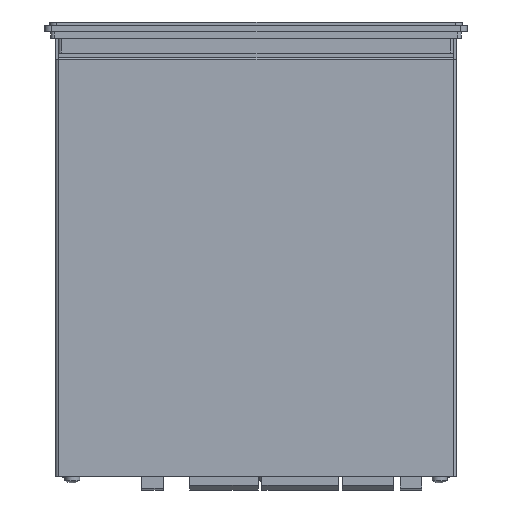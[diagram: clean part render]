
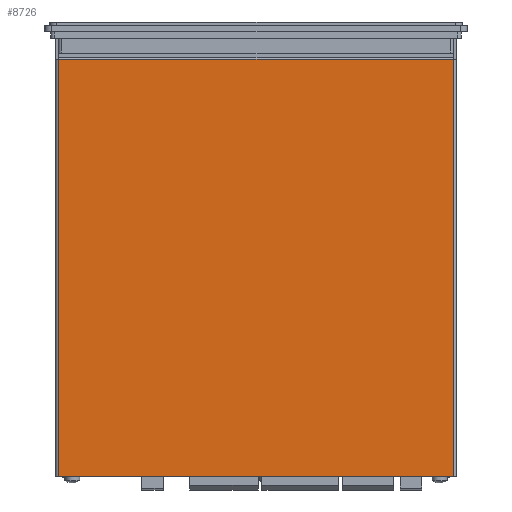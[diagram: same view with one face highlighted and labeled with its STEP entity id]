
A CAD part, front view. The second image highlights one B-rep face of the part: STEP entity #8726.
In plain terms, the highlighted planar face has unit normal (0, -1, 0).
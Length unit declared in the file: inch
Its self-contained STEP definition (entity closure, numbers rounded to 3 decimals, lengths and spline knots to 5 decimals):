
#8641=CARTESIAN_POINT('',(3.5525,-1.79,3.535));
#8642=VERTEX_POINT('',#8641);
#8678=CARTESIAN_POINT('',(-3.5525,-1.79,3.535));
#8679=VERTEX_POINT('',#8678);
#8687=CARTESIAN_POINT('',(3.5525,-1.79,3.535));
#8688=DIRECTION('',(-1.0,0.0,0.0));
#8689=VECTOR('',#8688,7.105);
#8690=LINE('',#8687,#8689);
#8691=EDGE_CURVE('',#8642,#8679,#8690,.T.);
#8696=CARTESIAN_POINT('',(-3.559,-1.79,4.035));
#8697=DIRECTION('',(0.0,-1.0,0.0));
#8698=DIRECTION('',(0.0,0.0,-1.0));
#8699=AXIS2_PLACEMENT_3D('',#8696,#8697,#8698);
#8700=PLANE('',#8699);
#8701=ORIENTED_EDGE('',*,*,#8691,.T.);
#8702=CARTESIAN_POINT('',(-3.5525,-1.79,-3.985));
#8703=VERTEX_POINT('',#8702);
#8704=CARTESIAN_POINT('',(-3.5525,-1.79,3.535));
#8705=DIRECTION('',(0.0,0.0,-1.0));
#8706=VECTOR('',#8705,7.52);
#8707=LINE('',#8704,#8706);
#8708=EDGE_CURVE('',#8679,#8703,#8707,.T.);
#8709=ORIENTED_EDGE('',*,*,#8708,.T.);
#8710=CARTESIAN_POINT('',(3.5525,-1.79,-3.985));
#8711=VERTEX_POINT('',#8710);
#8712=CARTESIAN_POINT('',(-3.5525,-1.79,-3.985));
#8713=DIRECTION('',(1.0,0.0,0.0));
#8714=VECTOR('',#8713,7.105);
#8715=LINE('',#8712,#8714);
#8716=EDGE_CURVE('',#8703,#8711,#8715,.T.);
#8717=ORIENTED_EDGE('',*,*,#8716,.T.);
#8718=CARTESIAN_POINT('',(3.5525,-1.79,3.535));
#8719=DIRECTION('',(0.0,0.0,-1.0));
#8720=VECTOR('',#8719,7.52);
#8721=LINE('',#8718,#8720);
#8722=EDGE_CURVE('',#8642,#8711,#8721,.T.);
#8723=ORIENTED_EDGE('',*,*,#8722,.F.);
#8724=EDGE_LOOP('',(#8701,#8709,#8717,#8723));
#8725=FACE_OUTER_BOUND('',#8724,.T.);
#8726=ADVANCED_FACE('',(#8725),#8700,.T.);
